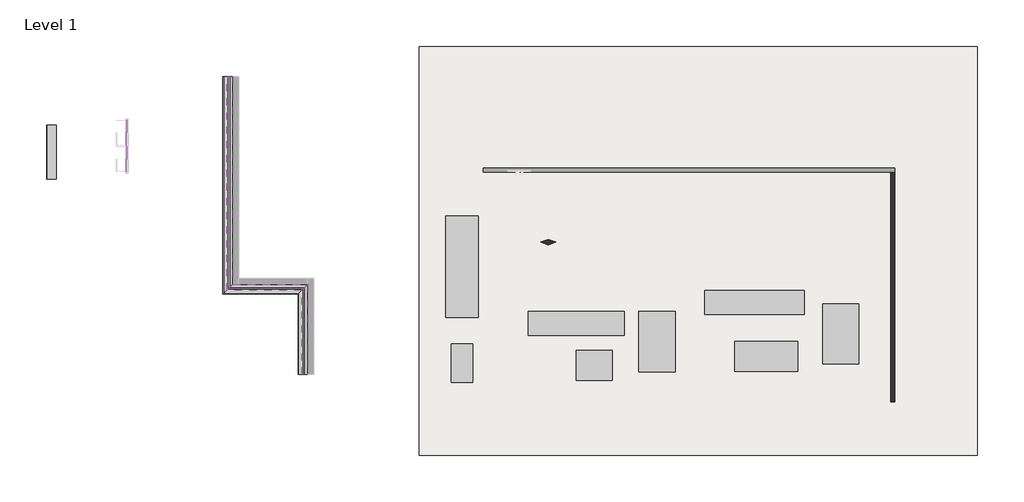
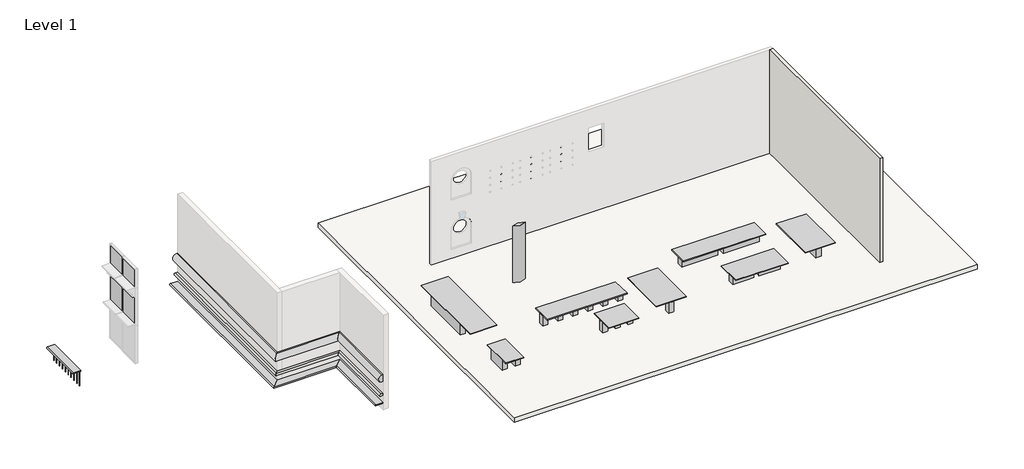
# One storey, part 3 of 3: 9 proxies, 8 furniture elements, 4 plates, 1 column, 1 railing, 1 slab, 1 wall.
"""IFC4 building model written with IfcOpenShell, lengths in millimetres."""

from ifc_helpers import new_model, si_unit, frame, origin, origin_with_axes, place, context, project, spatial, polyline, circle_curve, ellipse_curve, outline, extrude, transform, mapped, element, save
from ifc_brep_helpers import plane_surface, cylinder_surface, advanced_brep
from components import tn_table_a_two_legs_tn_table_a_narrow_15bdbce2, tn_table_a_two_legs_tn_table_a_standard_4b226d7d, tn_table_a_two_legs_tn_table_a_wide_599f4323, tn_table_b_multi_legs_tn_table_b_narrow_474e273d, tn_table_b_multi_legs_tn_table_b_standard_739334e6, tn_table_b_multi_legs_tn_table_b_wide_c729616e, tn_table_c_nested_leg_tn_table_c_cdfcde3a, tn_table_c_nested_leg_tn_table_c_07294a5f, curtain_panel_curtain_panel_3e1a44bc, curtain_panel1_curtain_panel_f333f51b, curtain_panel2_curtain_panel_d05ec8f4, curtain_panel3_curtain_panel_af51f934, handrail_rectangular_tn_mod_1_60d7f009

model = new_model("IFC4")

# Units and contexts
model_context = context("Model", 3, world=origin())
ifc_project = project(units=[si_unit("LENGTHUNIT", "METRE", prefix="MILLI")], contexts=[model_context])

# Site, building, storey
site = spatial("IfcSite", under=ifc_project)
building = spatial("IfcBuilding", under=site)
storey = spatial("IfcBuildingStorey", under=building, Name="Level 1", Elevation=0.0)

# Proxies
placement = place(None, origin())
element("IfcBuildingElementProxy", 1, Name="Wall Sweeps", at=placement, inside=storey, context=model_context, shape_type="AdvancedBrep", body=[
    advanced_brep(
    [(-19533.1471749, -3846.1505669, 2286.0), (-19609.3471749, -3846.1505669, 2286.0), (-19609.3471749, -3846.1505669, 1828.8), (-19533.1471749, -3846.1505669, 1828.8), (-19533.1471749, 725.8494331, 2286.0), (-19533.1471749, 725.8494331, 1828.8), (-19609.3471749, 649.6494331, 1828.8), (-19609.3471749, 649.6494331, 2286.0)],
    [
        (0, 1),
        (1, 2, circle_curve(frame((-19609.3471749, -3846.1505669, 2057.4), z_axis=(0.0, -1.0, 0.0), x_axis=(-1.0, 0.0, 0.0)), 228.6)),
        (2, 3),
        (3, 0),
        (4, 5),
        (5, 6),
        (6, 7, ellipse_curve(frame((-19609.3471749, 649.6494331, 2057.4), z_axis=(-0.7071067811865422, 0.7071067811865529, 0.0), x_axis=(-0.7071067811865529, -0.707106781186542, 0.0)), 323.2892204, 228.6)),
        (7, 4),
        (0, 4),
        (7, 1),
        (6, 2),
        (5, 3),
    ],
    [
        plane_surface(frame((-20002.1569556, -3846.1505669, 1828.8), z_axis=(0.0, -1.0, 0.0), x_axis=(0.0, 0.0, 1.0))),
        plane_surface(frame((-19533.1471749, 725.8494331, 1524.0), z_axis=(-0.7071067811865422, 0.7071067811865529, 0.0), x_axis=(-0.7071067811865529, -0.7071067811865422, 0.0))),
        plane_surface(frame((-19533.1471749, -3846.1505669, 2286.0), z_axis=(0.0, 0.0, 1.0), x_axis=(0.0, 1.0, 0.0))),
        cylinder_surface(frame((-19609.3471749, -3846.1505669, 2057.4), z_axis=(0.0, -1.0, 0.0), x_axis=(-1.0, 0.0, 0.0)), 228.6),
        plane_surface(frame((-19609.3471749, -3846.1505669, 1828.8), z_axis=(0.0, 0.0, -1.0), x_axis=(0.0, 1.0, 0.0))),
        plane_surface(frame((-19533.1471749, -3846.1505669, 1828.8), z_axis=(1.0, 0.0, 0.0), x_axis=(0.0, 1.0, 0.0))),
    ],
    [
        (0, [[1, 2, 3, 4]]),
        (1, [[5, 6, 7, 8]]),
        (2, [[-1, 9, -8, 10]]),
        (3, [[-2, -10, -7, 11]]),
        (4, [[-3, -11, -6, 12]]),
        (5, [[-4, -12, -5, -9]]),
    ],
),
])
element("IfcBuildingElementProxy", 2, Name="Wall Sweeps", at=placement, inside=storey, context=model_context, shape_type="AdvancedBrep", body=[
    advanced_brep(
    [(-19533.1471749, -3846.1505669, 1066.8), (-19685.5471749, -3846.1505669, 1066.8), (-19685.5471749, -3846.1505669, 914.4), (-19533.1471749, -3846.1505669, 914.4), (-19533.1471749, 725.8494331, 1066.8), (-19533.1471749, 725.8494331, 914.4), (-19685.5471749, 573.4494331, 914.4), (-19685.5471749, 573.4494331, 1066.8)],
    [
        (0, 1),
        (1, 2, circle_curve(frame((-19685.5471749, -3846.1505669, 990.6), z_axis=(0.0, -1.0, 0.0), x_axis=(-1.0, 0.0, 0.0)), 76.2)),
        (2, 3),
        (3, 0),
        (4, 5),
        (5, 6),
        (6, 7, ellipse_curve(frame((-19685.5471749, 573.4494331, 990.6), z_axis=(-0.7071067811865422, 0.7071067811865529, 0.0), x_axis=(-0.7071067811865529, -0.707106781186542, 0.0)), 107.7630735, 76.2)),
        (7, 4),
        (0, 4),
        (7, 1),
        (6, 2),
        (5, 3),
    ],
    [
        plane_surface(frame((-19779.6030555, -3846.1505669, 914.4), z_axis=(0.0, -1.0, 0.0), x_axis=(0.0, 0.0, 1.0))),
        plane_surface(frame((-19533.1471749, 725.8494331, 609.6), z_axis=(-0.7071067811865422, 0.7071067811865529, 0.0), x_axis=(-0.7071067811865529, -0.7071067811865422, 0.0))),
        plane_surface(frame((-19533.1471749, -3846.1505669, 1066.8), z_axis=(0.0, 0.0, 1.0), x_axis=(0.0, 1.0, 0.0))),
        cylinder_surface(frame((-19685.5471749, -3846.1505669, 990.6), z_axis=(0.0, -1.0, 0.0), x_axis=(-1.0, 0.0, 0.0)), 76.2),
        plane_surface(frame((-19685.5471749, -3846.1505669, 914.4), z_axis=(0.0, 0.0, -1.0), x_axis=(0.0, 1.0, 0.0))),
        plane_surface(frame((-19533.1471749, -3846.1505669, 914.4), z_axis=(1.0, 0.0, 0.0), x_axis=(0.0, 1.0, 0.0))),
    ],
    [
        (0, [[1, 2, 3, 4]]),
        (1, [[5, 6, 7, 8]]),
        (2, [[-1, 9, -8, 10]]),
        (3, [[-2, -10, -7, 11]]),
        (4, [[-3, -11, -6, 12]]),
        (5, [[-4, -12, -5, -9]]),
    ],
),
])
element("IfcBuildingElementProxy", 3, Name="Wall Sweeps", at=placement, inside=storey, context=model_context, shape_type="AdvancedBrep", body=[
    advanced_brep(
    [(-19533.1471749, -3846.1505669, 482.6), (-19990.3471749, -3846.1505669, 482.6), (-19990.3471749, -3846.1505669, 406.4), (-19533.1471749, -3846.1505669, 406.4), (-19533.1471749, 725.8494331, 482.6), (-19533.1471749, 725.8494331, 406.4), (-19990.3471749, 268.6494331, 406.4), (-19990.3471749, 268.6494331, 482.6)],
    [
        (0, 1),
        (1, 2, circle_curve(frame((-19990.3471749, -3846.1505669, 444.5), z_axis=(0.0, -1.0, 0.0), x_axis=(-1.0, 0.0, 0.0)), 38.1)),
        (2, 3),
        (3, 0),
        (4, 5),
        (5, 6),
        (6, 7, ellipse_curve(frame((-19990.3471749, 268.6494331, 444.5), z_axis=(-0.7071067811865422, 0.7071067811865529, 0.0), x_axis=(-0.7071067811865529, -0.707106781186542, 0.0)), 53.8815367, 38.1)),
        (7, 4),
        (0, 4),
        (7, 1),
        (6, 2),
        (5, 3),
    ],
    [
        plane_surface(frame((-20029.9103982, -3846.1505669, 406.4), z_axis=(0.0, -1.0, 0.0), x_axis=(0.0, 0.0, 1.0))),
        plane_surface(frame((-19533.1471749, 725.8494331, 101.6), z_axis=(-0.7071067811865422, 0.7071067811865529, 0.0), x_axis=(-0.7071067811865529, -0.7071067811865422, 0.0))),
        plane_surface(frame((-19533.1471749, -3846.1505669, 482.6), z_axis=(0.0, 0.0, 1.0), x_axis=(0.0, 1.0, 0.0))),
        cylinder_surface(frame((-19990.3471749, -3846.1505669, 444.5), z_axis=(0.0, -1.0, 0.0), x_axis=(-1.0, 0.0, 0.0)), 38.1),
        plane_surface(frame((-19990.3471749, -3846.1505669, 406.4), z_axis=(0.0, 0.0, -1.0), x_axis=(0.0, 1.0, 0.0))),
        plane_surface(frame((-19533.1471749, -3846.1505669, 406.4), z_axis=(1.0, 0.0, 0.0), x_axis=(0.0, 1.0, 0.0))),
    ],
    [
        (0, [[1, 2, 3, 4]]),
        (1, [[5, 6, 7, 8]]),
        (2, [[-1, 9, -8, 10]]),
        (3, [[-2, -10, -7, 11]]),
        (4, [[-3, -11, -6, 12]]),
        (5, [[-4, -12, -5, -9]]),
    ],
),
])
element("IfcBuildingElementProxy", 4, Name="Wall Sweeps", at=placement, inside=storey, context=model_context, shape_type="AdvancedBrep", body=[
    advanced_brep(
    [(-19533.1471749, 725.8494331, 2286.0), (-19609.3471749, 649.6494331, 2286.0), (-19609.3471749, 649.6494331, 1828.8), (-19533.1471749, 725.8494331, 1828.8), (-23343.1471749, 725.8494331, 2286.0), (-23343.1471749, 725.8494331, 1828.8), (-23419.3471749, 649.6494331, 1828.8), (-23419.3471749, 649.6494331, 2286.0)],
    [
        (0, 1),
        (1, 2, ellipse_curve(frame((-19609.3471749, 649.6494331, 2057.4), z_axis=(0.7071067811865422, -0.7071067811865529, 0.0), x_axis=(0.7071067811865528, 0.7071067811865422, 0.0)), 323.2892204, 228.6)),
        (2, 3),
        (3, 0),
        (4, 5),
        (5, 6),
        (6, 7, ellipse_curve(frame((-23419.3471749, 649.6494331, 2057.4), z_axis=(-0.7071067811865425, 0.7071067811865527, 0.0), x_axis=(0.7071067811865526, 0.7071067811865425, 0.0)), 323.2892204, 228.6)),
        (7, 4),
        (0, 4),
        (7, 1),
        (6, 2),
        (5, 3),
    ],
    [
        plane_surface(frame((-19533.1471749, 725.8494331, 1524.0), z_axis=(0.7071067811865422, -0.7071067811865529, 0.0), x_axis=(-0.7071067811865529, -0.7071067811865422, 0.0))),
        plane_surface(frame((-23343.1471749, 725.8494331, 2133.6), z_axis=(-0.7071067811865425, 0.7071067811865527, 0.0), x_axis=(0.7071067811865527, 0.7071067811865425, 0.0))),
        plane_surface(frame((-19533.1471749, 725.8494331, 2286.0), z_axis=(0.0, 0.0, 1.0), x_axis=(-1.0, 0.0, 0.0))),
        cylinder_surface(frame((-19533.1471749, 649.6494331, 2057.4), z_axis=(1.0, 0.0, 0.0), x_axis=(0.0, -1.0, 0.0)), 228.6),
        plane_surface(frame((-19609.3471749, 649.6494331, 1828.8), z_axis=(0.0, 0.0, -1.0), x_axis=(-1.0, 0.0, 0.0))),
        plane_surface(frame((-19533.1471749, 725.8494331, 1828.8), z_axis=(0.0, 1.0, 0.0), x_axis=(-1.0, 0.0, 0.0))),
    ],
    [
        (0, [[1, 2, 3, 4]]),
        (1, [[5, 6, 7, 8]]),
        (2, [[-1, 9, -8, 10]]),
        (3, [[-2, -10, -7, 11]]),
        (4, [[-3, -11, -6, 12]]),
        (5, [[-4, -12, -5, -9]]),
    ],
),
])
element("IfcBuildingElementProxy", 5, Name="Wall Sweeps", at=placement, inside=storey, context=model_context, shape_type="AdvancedBrep", body=[
    advanced_brep(
    [(-19533.1471749, 725.8494331, 1066.8), (-19685.5471749, 573.4494331, 1066.8), (-19685.5471749, 573.4494331, 914.4), (-19533.1471749, 725.8494331, 914.4), (-23343.1471749, 725.8494331, 1066.8), (-23343.1471749, 725.8494331, 914.4), (-23495.5471749, 573.4494331, 914.4), (-23495.5471749, 573.4494331, 1066.8)],
    [
        (0, 1),
        (1, 2, ellipse_curve(frame((-19685.5471749, 573.4494331, 990.6), z_axis=(0.7071067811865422, -0.7071067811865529, 0.0), x_axis=(0.7071067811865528, 0.7071067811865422, 0.0)), 107.7630735, 76.2)),
        (2, 3),
        (3, 0),
        (4, 5),
        (5, 6),
        (6, 7, ellipse_curve(frame((-23495.5471749, 573.4494331, 990.6), z_axis=(-0.7071067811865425, 0.7071067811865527, 0.0), x_axis=(0.7071067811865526, 0.7071067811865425, 0.0)), 107.7630735, 76.2)),
        (7, 4),
        (0, 4),
        (7, 1),
        (6, 2),
        (5, 3),
    ],
    [
        plane_surface(frame((-19533.1471749, 725.8494331, 609.6), z_axis=(0.7071067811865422, -0.7071067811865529, 0.0), x_axis=(-0.7071067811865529, -0.7071067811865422, 0.0))),
        plane_surface(frame((-23343.1471749, 725.8494331, 1219.2), z_axis=(-0.7071067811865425, 0.7071067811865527, 0.0), x_axis=(0.7071067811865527, 0.7071067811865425, 0.0))),
        plane_surface(frame((-19533.1471749, 725.8494331, 1066.8), z_axis=(0.0, 0.0, 1.0), x_axis=(-1.0, 0.0, 0.0))),
        cylinder_surface(frame((-19533.1471749, 573.4494331, 990.6), z_axis=(1.0, 0.0, 0.0), x_axis=(0.0, -1.0, 0.0)), 76.2),
        plane_surface(frame((-19685.5471749, 573.4494331, 914.4), z_axis=(0.0, 0.0, -1.0), x_axis=(-1.0, 0.0, 0.0))),
        plane_surface(frame((-19533.1471749, 725.8494331, 914.4), z_axis=(0.0, 1.0, 0.0), x_axis=(-1.0, 0.0, 0.0))),
    ],
    [
        (0, [[1, 2, 3, 4]]),
        (1, [[5, 6, 7, 8]]),
        (2, [[-1, 9, -8, 10]]),
        (3, [[-2, -10, -7, 11]]),
        (4, [[-3, -11, -6, 12]]),
        (5, [[-4, -12, -5, -9]]),
    ],
),
])
element("IfcBuildingElementProxy", 6, Name="Wall Sweeps", at=placement, inside=storey, context=model_context, shape_type="AdvancedBrep", body=[
    advanced_brep(
    [(-19533.1471749, 725.8494331, 482.6), (-19990.3471749, 268.6494331, 482.6), (-19990.3471749, 268.6494331, 406.4), (-19533.1471749, 725.8494331, 406.4), (-23343.1471749, 725.8494331, 482.6), (-23343.1471749, 725.8494331, 406.4), (-23800.3471749, 268.6494331, 406.4), (-23800.3471749, 268.6494331, 482.6)],
    [
        (0, 1),
        (1, 2, ellipse_curve(frame((-19990.3471749, 268.6494331, 444.5), z_axis=(0.7071067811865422, -0.7071067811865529, 0.0), x_axis=(0.7071067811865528, 0.7071067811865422, 0.0)), 53.8815367, 38.1)),
        (2, 3),
        (3, 0),
        (4, 5),
        (5, 6),
        (6, 7, ellipse_curve(frame((-23800.3471749, 268.6494331, 444.5), z_axis=(-0.7071067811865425, 0.7071067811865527, 0.0), x_axis=(0.7071067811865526, 0.7071067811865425, 0.0)), 53.8815367, 38.1)),
        (7, 4),
        (0, 4),
        (7, 1),
        (6, 2),
        (5, 3),
    ],
    [
        plane_surface(frame((-19533.1471749, 725.8494331, 101.6), z_axis=(0.7071067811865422, -0.7071067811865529, 0.0), x_axis=(-0.7071067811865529, -0.7071067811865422, 0.0))),
        plane_surface(frame((-23343.1471749, 725.8494331, 711.2), z_axis=(-0.7071067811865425, 0.7071067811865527, 0.0), x_axis=(0.7071067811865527, 0.7071067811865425, 0.0))),
        plane_surface(frame((-19533.1471749, 725.8494331, 482.6), z_axis=(0.0, 0.0, 1.0), x_axis=(-1.0, 0.0, 0.0))),
        cylinder_surface(frame((-19533.1471749, 268.6494331, 444.5), z_axis=(1.0, 0.0, 0.0), x_axis=(0.0, -1.0, 0.0)), 38.1),
        plane_surface(frame((-19990.3471749, 268.6494331, 406.4), z_axis=(0.0, 0.0, -1.0), x_axis=(-1.0, 0.0, 0.0))),
        plane_surface(frame((-19533.1471749, 725.8494331, 406.4), z_axis=(0.0, 1.0, 0.0), x_axis=(-1.0, 0.0, 0.0))),
    ],
    [
        (0, [[1, 2, 3, 4]]),
        (1, [[5, 6, 7, 8]]),
        (2, [[-1, 9, -8, 10]]),
        (3, [[-2, -10, -7, 11]]),
        (4, [[-3, -11, -6, 12]]),
        (5, [[-4, -12, -5, -9]]),
    ],
),
])
element("IfcBuildingElementProxy", 7, Name="Wall Sweeps", at=placement, inside=storey, context=model_context, shape_type="AdvancedBrep", body=[
    advanced_brep(
    [(-23343.1471749, 725.8494331, 2286.0), (-23419.3471749, 649.6494331, 2286.0), (-23419.3471749, 649.6494331, 1828.8), (-23343.1471749, 725.8494331, 1828.8), (-23343.1471749, 11241.4494331, 2286.0), (-23343.1471749, 11241.4494331, 1828.8), (-23419.3471749, 11241.4494331, 1828.8), (-23419.3471749, 11241.4494331, 2286.0)],
    [
        (0, 1),
        (1, 2, ellipse_curve(frame((-23419.3471749, 649.6494331, 2057.4), z_axis=(0.7071067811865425, -0.7071067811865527, 0.0), x_axis=(-0.7071067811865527, -0.7071067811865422, 0.0)), 323.2892204, 228.6)),
        (2, 3),
        (3, 0),
        (4, 5),
        (5, 6),
        (6, 7, circle_curve(frame((-23419.3471749, 11241.4494331, 2057.4), z_axis=(0.0, 1.0, 0.0), x_axis=(-1.0, 0.0, 0.0)), 228.6)),
        (7, 4),
        (0, 4),
        (7, 1),
        (6, 2),
        (5, 3),
    ],
    [
        plane_surface(frame((-23343.1471749, 725.8494331, 2133.6), z_axis=(0.7071067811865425, -0.7071067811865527, 0.0), x_axis=(0.7071067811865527, 0.7071067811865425, 0.0))),
        plane_surface(frame((-23812.1569556, 11241.4494331, 1828.8), z_axis=(0.0, 1.0, 0.0), x_axis=(0.0, 0.0, 1.0))),
        plane_surface(frame((-23343.1471749, 725.8494331, 2286.0), z_axis=(0.0, 0.0, 1.0), x_axis=(0.0, 1.0, 0.0))),
        cylinder_surface(frame((-23419.3471749, 725.8494331, 2057.4), z_axis=(0.0, -1.0, 0.0), x_axis=(-1.0, 0.0, 0.0)), 228.6),
        plane_surface(frame((-23419.3471749, 649.6494331, 1828.8), z_axis=(0.0, 0.0, -1.0), x_axis=(0.0, 1.0, 0.0))),
        plane_surface(frame((-23343.1471749, 725.8494331, 1828.8), z_axis=(1.0, 0.0, 0.0), x_axis=(0.0, 1.0, 0.0))),
    ],
    [
        (0, [[1, 2, 3, 4]]),
        (1, [[5, 6, 7, 8]]),
        (2, [[-1, 9, -8, 10]]),
        (3, [[-2, -10, -7, 11]]),
        (4, [[-3, -11, -6, 12]]),
        (5, [[-4, -12, -5, -9]]),
    ],
),
])
element("IfcBuildingElementProxy", 8, Name="Wall Sweeps", at=placement, inside=storey, context=model_context, shape_type="AdvancedBrep", body=[
    advanced_brep(
    [(-23343.1471749, 725.8494331, 1066.8), (-23495.5471749, 573.4494331, 1066.8), (-23495.5471749, 573.4494331, 914.4), (-23343.1471749, 725.8494331, 914.4), (-23343.1471749, 11241.4494331, 1066.8), (-23343.1471749, 11241.4494331, 914.4), (-23495.5471749, 11241.4494331, 914.4), (-23495.5471749, 11241.4494331, 1066.8)],
    [
        (0, 1),
        (1, 2, ellipse_curve(frame((-23495.5471749, 573.4494331, 990.6), z_axis=(0.7071067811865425, -0.7071067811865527, 0.0), x_axis=(-0.7071067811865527, -0.7071067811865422, 0.0)), 107.7630735, 76.2)),
        (2, 3),
        (3, 0),
        (4, 5),
        (5, 6),
        (6, 7, circle_curve(frame((-23495.5471749, 11241.4494331, 990.6), z_axis=(0.0, 1.0, 0.0), x_axis=(-1.0, 0.0, 0.0)), 76.2)),
        (7, 4),
        (0, 4),
        (7, 1),
        (6, 2),
        (5, 3),
    ],
    [
        plane_surface(frame((-23343.1471749, 725.8494331, 1219.2), z_axis=(0.7071067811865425, -0.7071067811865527, 0.0), x_axis=(0.7071067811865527, 0.7071067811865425, 0.0))),
        plane_surface(frame((-23589.6030555, 11241.4494331, 914.4), z_axis=(0.0, 1.0, 0.0), x_axis=(0.0, 0.0, 1.0))),
        plane_surface(frame((-23343.1471749, 725.8494331, 1066.8), z_axis=(0.0, 0.0, 1.0), x_axis=(0.0, 1.0, 0.0))),
        cylinder_surface(frame((-23495.5471749, 725.8494331, 990.6), z_axis=(0.0, -1.0, 0.0), x_axis=(-1.0, 0.0, 0.0)), 76.2),
        plane_surface(frame((-23495.5471749, 573.4494331, 914.4), z_axis=(0.0, 0.0, -1.0), x_axis=(0.0, 1.0, 0.0))),
        plane_surface(frame((-23343.1471749, 725.8494331, 914.4), z_axis=(1.0, 0.0, 0.0), x_axis=(0.0, 1.0, 0.0))),
    ],
    [
        (0, [[1, 2, 3, 4]]),
        (1, [[5, 6, 7, 8]]),
        (2, [[-1, 9, -8, 10]]),
        (3, [[-2, -10, -7, 11]]),
        (4, [[-3, -11, -6, 12]]),
        (5, [[-4, -12, -5, -9]]),
    ],
),
])
element("IfcBuildingElementProxy", 9, Name="Wall Sweeps", at=placement, inside=storey, context=model_context, shape_type="AdvancedBrep", body=[
    advanced_brep(
    [(-23343.1471749, 725.8494331, 482.6), (-23800.3471749, 268.6494331, 482.6), (-23800.3471749, 268.6494331, 406.4), (-23343.1471749, 725.8494331, 406.4), (-23343.1471749, 11241.4494331, 482.6), (-23343.1471749, 11241.4494331, 406.4), (-23800.3471749, 11241.4494331, 406.4), (-23800.3471749, 11241.4494331, 482.6)],
    [
        (0, 1),
        (1, 2, ellipse_curve(frame((-23800.3471749, 268.6494331, 444.5), z_axis=(0.7071067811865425, -0.7071067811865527, 0.0), x_axis=(-0.7071067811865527, -0.7071067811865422, 0.0)), 53.8815367, 38.1)),
        (2, 3),
        (3, 0),
        (4, 5),
        (5, 6),
        (6, 7, circle_curve(frame((-23800.3471749, 11241.4494331, 444.5), z_axis=(0.0, 1.0, 0.0), x_axis=(-1.0, 0.0, 0.0)), 38.1)),
        (7, 4),
        (0, 4),
        (7, 1),
        (6, 2),
        (5, 3),
    ],
    [
        plane_surface(frame((-23343.1471749, 725.8494331, 711.2), z_axis=(0.7071067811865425, -0.7071067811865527, 0.0), x_axis=(0.7071067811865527, 0.7071067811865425, 0.0))),
        plane_surface(frame((-23839.9103982, 11241.4494331, 406.4), z_axis=(0.0, 1.0, 0.0), x_axis=(0.0, 0.0, 1.0))),
        plane_surface(frame((-23343.1471749, 725.8494331, 482.6), z_axis=(0.0, 0.0, 1.0), x_axis=(0.0, 1.0, 0.0))),
        cylinder_surface(frame((-23800.3471749, 725.8494331, 444.5), z_axis=(0.0, -1.0, 0.0), x_axis=(-1.0, 0.0, 0.0)), 38.1),
        plane_surface(frame((-23800.3471749, 268.6494331, 406.4), z_axis=(0.0, 0.0, -1.0), x_axis=(0.0, 1.0, 0.0))),
        plane_surface(frame((-23343.1471749, 725.8494331, 406.4), z_axis=(1.0, 0.0, 0.0), x_axis=(0.0, 1.0, 0.0))),
    ],
    [
        (0, [[1, 2, 3, 4]]),
        (1, [[5, 6, 7, 8]]),
        (2, [[-1, 9, -8, 10]]),
        (3, [[-2, -10, -7, 11]]),
        (4, [[-3, -11, -6, 12]]),
        (5, [[-4, -12, -5, -9]]),
    ],
),
])

# Column
element("IfcColumn", 10, ObjectType="tn_flw_column_guggenheim_02 : tn_flw_column_guggenheim_01_medium", at=placement, inside=storey, context=model_context, shape_type="AdvancedBrep", body=[
    advanced_brep(
    [(-7730.8299068, 2860.9361552, 0.0), (-6968.8299068, 2860.9361552, 0.0), (-7730.8299068, 2860.9361552, 3657.6), (-6968.8299068, 2860.9361552, 3657.6), (-6968.8299068, 2860.9361552, 3048.0), (-6968.8299068, 2860.9361552, 2743.2)],
    [
        (0, 1, circle_curve(frame((-7349.8299068, 2385.0673077, 0.0), z_axis=(0.0, 0.0, -1.0), x_axis=(0.0, -1.0, 0.0)), 609.6)),
        (1, 0, circle_curve(frame((-7349.8299068, 3336.8050027, 0.0), z_axis=(0.0, 0.0, -1.0), x_axis=(0.0, -1.0, 0.0)), 609.6)),
        (2, 3, circle_curve(frame((-7349.8299068, 2385.0673077, 3657.6), z_axis=(0.0, 0.0, -1.0), x_axis=(0.0, -1.0, 0.0)), 609.6)),
        (3, 4),
        (4, 5),
        (5, 1),
        (0, 2),
        (3, 2, circle_curve(frame((-7349.8299068, 3336.8050027, 3657.6), z_axis=(0.0, 0.0, -1.0), x_axis=(0.0, -1.0, 0.0)), 609.6)),
    ],
    [
        plane_surface(frame((-7349.8299068, 2727.2050027, 0.0), z_axis=(0.0, 0.0, -1.0), x_axis=(-1.0, 0.0, 0.0))),
        cylinder_surface(frame((-7349.8299068, 2385.0673077, 0.0), z_axis=(0.0, 0.0, 1.0), x_axis=(0.0, -1.0, 0.0)), 609.6),
        cylinder_surface(frame((-7349.8299068, 3336.8050027, 0.0), z_axis=(0.0, 0.0, 1.0), x_axis=(0.0, -1.0, 0.0)), 609.6),
        plane_surface(frame((-7349.8299068, 2727.2050027, 3657.6), z_axis=(0.0, 0.0, 1.0), x_axis=(1.0, 0.0, 0.0))),
    ],
    [
        (0, [[1, 2]]),
        (1, [[3, 4, 5, 6, -1, 7]]),
        (2, [[8, -7, -2, -6, -5, -4]]),
        (3, [[-8, -3]]),
    ],
),
])

# Furniture
tn_table_a_two_legs_tn_table_a_narrow_shape = tn_table_a_two_legs_tn_table_a_narrow_15bdbce2(model_context)
element("IfcFurniture", 11, ObjectType="tn_table_A_two_legs : tn_table_A_narrow", at=placement, inside=storey, context=model_context, shape_type="MappedRepresentation", body=[
    mapped(tn_table_a_two_legs_tn_table_a_narrow_shape, transform((1997.3700932, -187.0638448, 0.0), x_axis=(1.0, 0.0, 0.0), y_axis=(0.0, 1.0, 0.0), z_axis=(0.0, 0.0, 1.0))),
])
tn_table_a_two_legs_tn_table_a_standard_shape = tn_table_a_two_legs_tn_table_a_standard_4b226d7d(model_context)
element("IfcFurniture", 12, ObjectType="tn_table_A_two_legs : tn_table_A_standard", at=placement, inside=storey, context=model_context, shape_type="MappedRepresentation", body=[
    mapped(tn_table_a_two_legs_tn_table_a_standard_shape, transform((3521.3700932, -2930.2638448, 0.0), x_axis=(1.0, 0.0, 0.0), y_axis=(0.0, 1.0, 0.0), z_axis=(0.0, 0.0, 1.0))),
])
tn_table_a_two_legs_tn_table_a_wide_shape = tn_table_a_two_legs_tn_table_a_wide_599f4323(model_context)
element("IfcFurniture", 13, ObjectType="tn_table_A_two_legs : tn_table_A_wide", at=placement, inside=storey, context=model_context, shape_type="MappedRepresentation", body=[
    mapped(tn_table_a_two_legs_tn_table_a_wide_shape, transform((7441.6528251, -1863.4638448, 0.0), x_axis=(0.0, 1.0, 0.0), y_axis=(-1.0, 0.0, 0.0), z_axis=(0.0, 0.0, 1.0))),
])
tn_table_b_multi_legs_tn_table_b_narrow_shape = tn_table_b_multi_legs_tn_table_b_narrow_474e273d(model_context)
element("IfcFurniture", 14, ObjectType="tn_table_B_multi_legs : tn_table_B_narrow", at=placement, inside=storey, context=model_context, shape_type="MappedRepresentation", body=[
    mapped(tn_table_b_multi_legs_tn_table_b_narrow_shape, transform((-6841.8299068, -1253.8638448, 0.0), x_axis=(1.0, 0.0, 0.0), y_axis=(0.0, 1.0, 0.0), z_axis=(0.0, 0.0, 1.0))),
])
tn_table_b_multi_legs_tn_table_b_standard_shape = tn_table_b_multi_legs_tn_table_b_standard_739334e6(model_context)
element("IfcFurniture", 15, ObjectType="tn_table_B_multi_legs : tn_table_B_standard", at=placement, inside=storey, context=model_context, shape_type="MappedRepresentation", body=[
    mapped(tn_table_b_multi_legs_tn_table_b_standard_shape, transform((-4555.8299068, -3387.4638448, 0.0), x_axis=(1.0, 0.0, 0.0), y_axis=(0.0, 1.0, 0.0), z_axis=(0.0, 0.0, 1.0))),
])
tn_table_b_multi_legs_tn_table_b_wide_shape = tn_table_b_multi_legs_tn_table_b_wide_c729616e(model_context)
element("IfcFurniture", 16, ObjectType="tn_table_B_multi_legs : tn_table_B_wide", at=placement, inside=storey, context=model_context, shape_type="MappedRepresentation", body=[
    mapped(tn_table_b_multi_legs_tn_table_b_wide_shape, transform((-1854.7471749, -2168.2638448, 0.0), x_axis=(0.0, 1.0, 0.0), y_axis=(-1.0, 0.0, 0.0), z_axis=(0.0, 0.0, 1.0))),
])
tn_table_c_nested_leg_tn_table_c_shape = tn_table_c_nested_leg_tn_table_c_cdfcde3a(model_context)
element("IfcFurniture", 17, ObjectType="tn_table_C_nested_leg : TN_table_C", at=placement, inside=storey, context=model_context, shape_type="MappedRepresentation", body=[
    mapped(tn_table_c_nested_leg_tn_table_c_shape, transform((-10629.4661215, -3265.3010825, 0.0), x_axis=(1.0, 0.0, 0.0), y_axis=(0.0, 1.0, 0.0), z_axis=(0.0, 0.0, 1.0))),
])
tn_table_c_nested_leg_tn_table_c_2_shape = tn_table_c_nested_leg_tn_table_c_07294a5f(model_context)
element("IfcFurniture", 18, ObjectType="tn_table_C_nested_leg : TN_table_C", at=placement, inside=storey, context=model_context, shape_type="MappedRepresentation", body=[
    mapped(tn_table_c_nested_leg_tn_table_c_2_shape, transform((-10915.4013331, 1612.9856396, 0.0), x_axis=(1.0, 0.0, 0.0), y_axis=(0.0, 1.0, 0.0), z_axis=(0.0, 0.0, 1.0))),
])

# Plates
curtain_panel_curtain_panel_shape = curtain_panel_curtain_panel_3e1a44bc(model_context)
element("IfcPlate", 19, ObjectType="Curtain Panel : Curtain Panel", at=placement, inside=storey, context=model_context, shape_type="MappedRepresentation", body=[
    mapped(curtain_panel_curtain_panel_shape, transform((0.0, 0.0, 0.0), x_axis=(1.0, 0.0, 0.0), y_axis=(0.0, 1.0, 0.0), z_axis=(0.0, 0.0, 1.0))),
])
curtain_panel1_curtain_panel_shape = curtain_panel1_curtain_panel_f333f51b(model_context)
element("IfcPlate", 20, ObjectType="Curtain Panel1 : Curtain Panel", at=placement, inside=storey, context=model_context, shape_type="MappedRepresentation", body=[
    mapped(curtain_panel1_curtain_panel_shape, transform((0.0, 0.0, 0.0), x_axis=(1.0, 0.0, 0.0), y_axis=(0.0, 1.0, 0.0), z_axis=(0.0, 0.0, 1.0))),
])
curtain_panel2_curtain_panel_shape = curtain_panel2_curtain_panel_d05ec8f4(model_context)
element("IfcPlate", 21, ObjectType="Curtain Panel2 : Curtain Panel", at=placement, inside=storey, context=model_context, shape_type="MappedRepresentation", body=[
    mapped(curtain_panel2_curtain_panel_shape, transform((0.0, 0.0, 0.0), x_axis=(1.0, 0.0, 0.0), y_axis=(0.0, 1.0, 0.0), z_axis=(0.0, 0.0, 1.0))),
])
curtain_panel3_curtain_panel_shape = curtain_panel3_curtain_panel_af51f934(model_context)
element("IfcPlate", 22, ObjectType="Curtain Panel3 : Curtain Panel", at=placement, inside=storey, context=model_context, shape_type="MappedRepresentation", body=[
    mapped(curtain_panel3_curtain_panel_shape, transform((0.0, 0.0, 0.0), x_axis=(1.0, 0.0, 0.0), y_axis=(0.0, 1.0, 0.0), z_axis=(0.0, 0.0, 1.0))),
])

# Railing
handrail_rectangular_tn_mod_1_shape = handrail_rectangular_tn_mod_1_60d7f009(model_context)
element("IfcRailing", 23, ObjectType="Handrail - Rectangular TN mod 1", at=placement, inside=storey, context=model_context, shape_type="MappedRepresentation", body=[
    mapped(handrail_rectangular_tn_mod_1_shape, transform((0.0, 0.0, 0.0), x_axis=(1.0, 0.0, 0.0), y_axis=(0.0, 1.0, 0.0), z_axis=(0.0, 0.0, 1.0))),
])

# Slab
element("IfcSlab", 24, ObjectType="Generic - 12\"", at=placement, inside=storey, context=model_context, shape_type="SweptSolid", body=[
    extrude(outline(polyline([(14367.9238435, 12779.5474831), (14367.9238435, -7946.8525169), (-13894.3471749, -7946.8525169), (-13894.3471749, 12779.5474831), (14367.9238435, 12779.5474831)])), frame((0.0, 0.0, -304.8), z_axis=(0.0, 0.0, 1.0), x_axis=(1.0, 0.0, 0.0)), (0.0, 0.0, 1.0), 304.8),
])

# Wall
element("IfcWall", 25, ObjectType="Generic - 8\"", at=placement, inside=storey, context=model_context, shape_type="SweptSolid", body=[
    extrude(outline(polyline([(9972.9700932, -5216.2638448), (9972.9700932, 6416.9361552), (10176.1700932, 6416.9361552), (10176.1700932, -5216.2638448), (9972.9700932, -5216.2638448)])), origin_with_axes(), (0.0, 0.0, 1.0), 6705.6),
])

save(model, "model.ifc")
